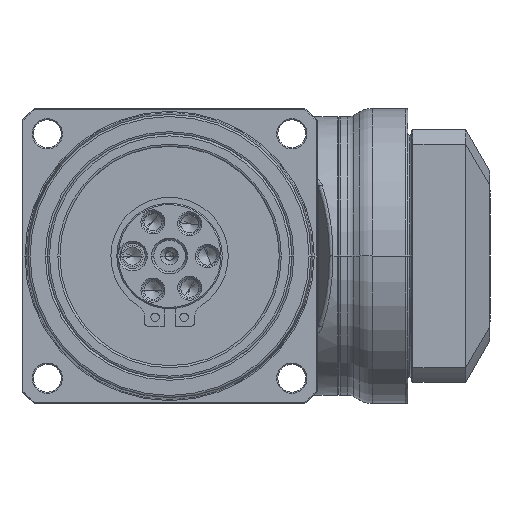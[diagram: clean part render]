
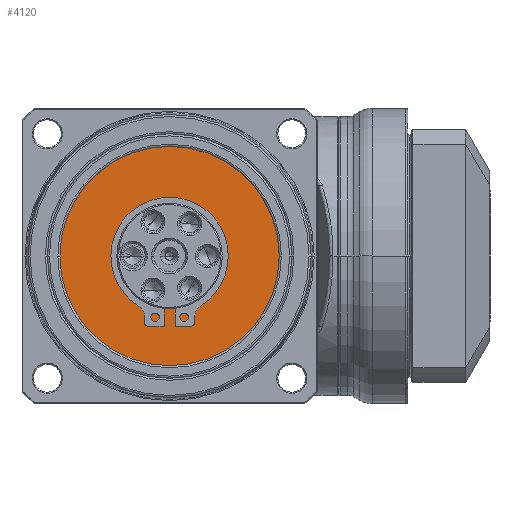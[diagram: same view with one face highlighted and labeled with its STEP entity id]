
A CAD part, left-side view. The second image highlights one B-rep face of the part: STEP entity #4120.
In plain terms, the highlighted planar face has unit normal (-1, 0, 0).
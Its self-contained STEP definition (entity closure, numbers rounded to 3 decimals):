
#3163=CARTESIAN_POINT('',(-32.,0.,0.));
#3164=DIRECTION('',(1.,0.,0.));
#3165=DIRECTION('',(0.,1.,0.));
#3166=AXIS2_PLACEMENT_3D('',#3163,#3164,#3165);
#3172=CARTESIAN_POINT('',(-32.,0.,0.));
#3173=DIRECTION('',(-1.,0.,0.));
#3174=DIRECTION('',(0.,1.,0.));
#3175=AXIS2_PLACEMENT_3D('',#3172,#3173,#3174);
#3191=CARTESIAN_POINT('',(-32.,0.,0.));
#3192=DIRECTION('',(-1.,0.,0.));
#3193=DIRECTION('',(0.,1.,0.));
#3194=AXIS2_PLACEMENT_3D('',#3191,#3192,#3193);
#3196=CARTESIAN_POINT('',(-32.,0.,0.));
#3197=DIRECTION('',(1.,0.,0.));
#3198=DIRECTION('',(0.,1.,0.));
#3199=AXIS2_PLACEMENT_3D('',#3196,#3197,#3198);
#3584=CARTESIAN_POINT('',(-32.,26.,0.));
#3586=VERTEX_POINT('',#3584);
#3588=CARTESIAN_POINT('',(-32.,-26.,0.));
#3590=VERTEX_POINT('',#3588);
#3591=CARTESIAN_POINT('',(-32.,12.5,0.));
#3592=CARTESIAN_POINT('',(-32.,-12.5,0.));
#3593=VERTEX_POINT('',#3591);
#3594=VERTEX_POINT('',#3592);
#4105=CARTESIAN_POINT('',(-32.,0.,0.));
#4106=DIRECTION('',(1.,0.,0.));
#4107=DIRECTION('',(0.,-1.,0.));
#4108=AXIS2_PLACEMENT_3D('',#4105,#4106,#4107);
#4109=PLANE('',#4108);
#4111=ORIENTED_EDGE('',*,*,#4110,.F.);
#4113=ORIENTED_EDGE('',*,*,#4112,.T.);
#4114=EDGE_LOOP('',(#4111,#4113));
#4115=FACE_OUTER_BOUND('',#4114,.F.);
#4116=ORIENTED_EDGE('',*,*,#4072,.F.);
#4117=ORIENTED_EDGE('',*,*,#4087,.T.);
#4118=EDGE_LOOP('',(#4116,#4117));
#4119=FACE_BOUND('',#4118,.F.);
#4120=ADVANCED_FACE('',(#4115,#4119),#4109,.F.);
#3167=CIRCLE('',#3166,12.5);
#3176=CIRCLE('',#3175,12.5);
#3195=CIRCLE('',#3194,26.);
#3200=CIRCLE('',#3199,26.);
#4072=EDGE_CURVE('',#3593,#3594,#3167,.T.);
#4087=EDGE_CURVE('',#3593,#3594,#3176,.T.);
#4110=EDGE_CURVE('',#3586,#3590,#3195,.T.);
#4112=EDGE_CURVE('',#3586,#3590,#3200,.T.);
